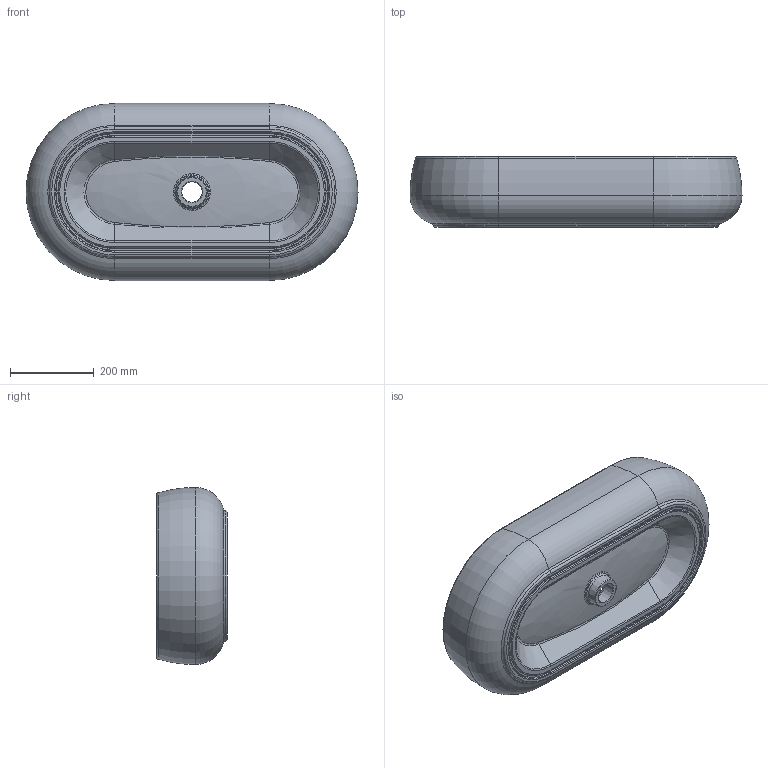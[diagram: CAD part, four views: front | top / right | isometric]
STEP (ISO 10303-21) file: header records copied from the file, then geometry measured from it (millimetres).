
FILE_DESCRIPTION (( 'STEP AP203' ), '1' );
FILE_NAME ('NUV200_AP8.STEP', '2017-12-13T11:48:57', ( '' ), ( '' ), 'SwSTEP 2.0', 'SolidWorks 2018', '' );
FILE_SCHEMA (( 'CONFIG_CONTROL_DESIGN' ));
Length unit declared in the file: millimetre
Products named in the file (1): NUV200_AP8
Bounding box: 790.5 x 168.64 x 421.6 mm (x, y, z)
Volume: 20398473.6 mm3; surface area: 975262.9 mm2
Topology: 1 solids, 1 shells, 65 faces, 150 edges, 90 vertices
Faces by surface type: torus 22, cylinder 20, bspline 12, plane 7, cone 4
Entity records: 8025 total; most frequent: CARTESIAN_POINT 6602, DIRECTION 298, ORIENTED_EDGE 256, AXIS2_PLACEMENT_3D 132, EDGE_CURVE 128, EDGE_LOOP 82, VERTEX_POINT 80, CIRCLE 78
